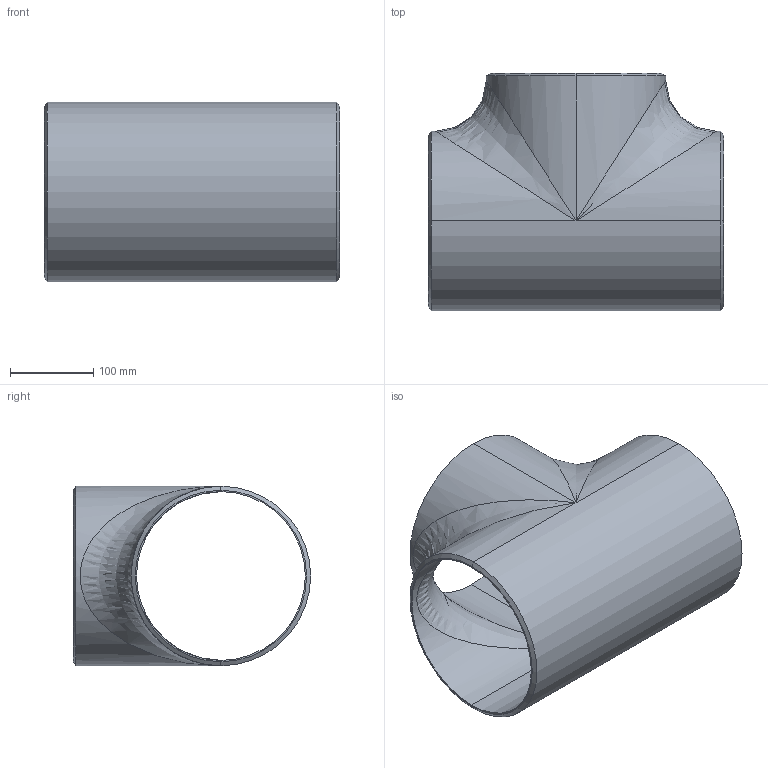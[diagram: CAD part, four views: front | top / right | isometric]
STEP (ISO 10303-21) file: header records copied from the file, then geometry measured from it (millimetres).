
FILE_DESCRIPTION (( 'STEP AP214' ), '1' );
FILE_NAME ('Equal-tee_Sch20S-200A.STEP', '2022-06-30T23:23:39', ( 'ASIS User' ), ( 'ASIS User' ), 'SwSTEP 2.0', 'SolidWorks 2022', '' );
FILE_SCHEMA (( 'AUTOMOTIVE_DESIGN' ));
Length unit declared in the file: millimetre
Products named in the file (1): Equal-tee_Sch20S-200A
Bounding box: 355.6 x 285.95 x 216.3 mm (x, y, z)
Volume: 1666854.7 mm3; surface area: 525874.9 mm2
Topology: 1 solids, 1 shells, 23 faces, 52 edges, 22 vertices
Faces by surface type: cylinder 10, cone 6, bspline 4, plane 3
Entity records: 1374 total; most frequent: CARTESIAN_POINT 902, DIRECTION 94, ORIENTED_EDGE 88, EDGE_CURVE 44, AXIS2_PLACEMENT_3D 38, EDGE_LOOP 26, FACE_OUTER_BOUND 23, ADVANCED_FACE 23
